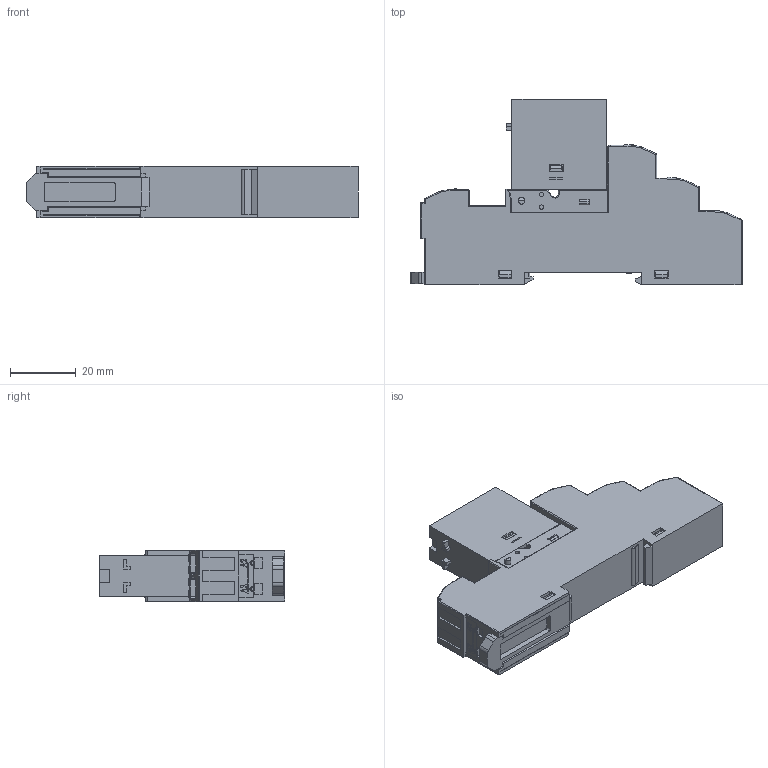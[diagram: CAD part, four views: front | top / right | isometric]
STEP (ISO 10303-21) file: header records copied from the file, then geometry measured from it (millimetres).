
FILE_DESCRIPTION (( 'STEP AP203' ), '1' );
FILE_NAME ('RFT2CO+SRU08-ST 俋倛.STEP', '2023-06-07T05:49:47', ( '' ), ( '' ), 'SwSTEP 2.0', 'SolidWorks 2018', '' );
FILE_SCHEMA (( 'CONFIG_CONTROL_DESIGN' ));
Length unit declared in the file: millimetre
Products named in the file (3): RFT2CO+SRU08-ST 俋倛; SRU08-ST 俋倛; RFT-2C -L 俋倛
Assembly tree (2 placements, depth 2):
  RFT2CO+SRU08-ST 俋倛
    SRU08-ST 俋倛
    RFT-2C -L 俋倛
Bounding box: 101.2 x 56.5 x 15.85 mm (x, y, z)
Volume: 51789.6 mm3; surface area: 16742 mm2
Topology: 2 solids, 3 shells, 1821 faces, 5111 edges, 3353 vertices
Faces by surface type: plane 1163, cylinder 460, bspline 106, cone 53, torus 20, sphere 19
Entity records: 64047 total; most frequent: CARTESIAN_POINT 18753, ORIENTED_EDGE 10202, DIRECTION 8301, EDGE_CURVE 5101, VECTOR 3637, LINE 3637, VERTEX_POINT 3353, AXIS2_PLACEMENT_3D 2332
